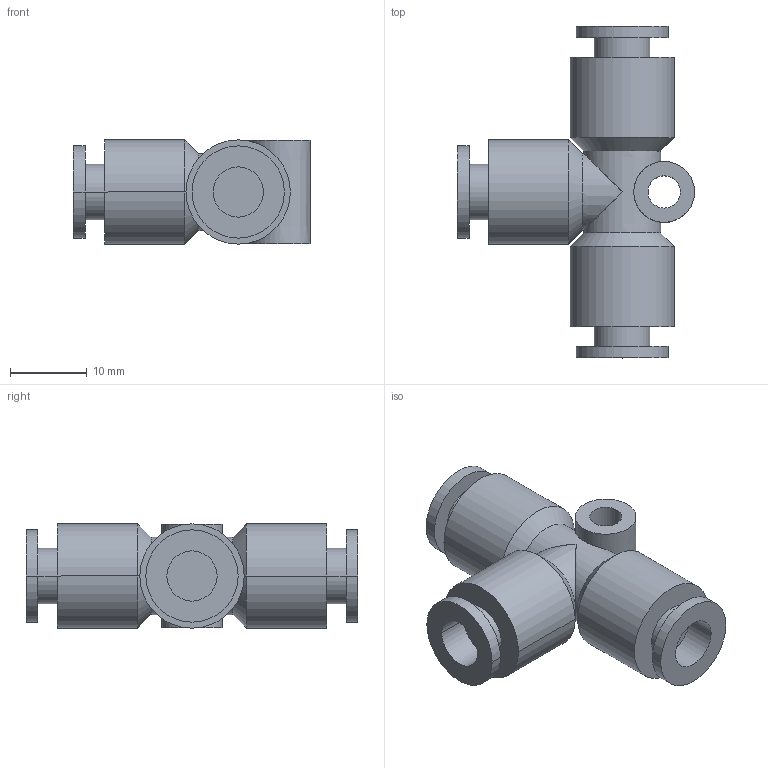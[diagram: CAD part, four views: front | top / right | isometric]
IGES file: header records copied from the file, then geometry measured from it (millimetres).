
Global section: file name: C:\Documents and Settings\Administrator\My Documents\PersonalProject\smcteeunion.igs; native system: AutoDesk Inventor R2.0 ; preprocessor: AutoDesk Inventor Iges Exporter R2.0; author: No Author specified; organization: No Organization specified; date: 20020115.192449; units: inch
Bounding box: 30.8 x 43.1 x 13.54 mm (x, y, z)
Surface area: 3810.4 mm2 (no closed solid volume)
Topology: 0 solids, 0 shells, 52 faces, 222 edges, 222 vertices
Faces by surface type: revolution 38, bspline 14
